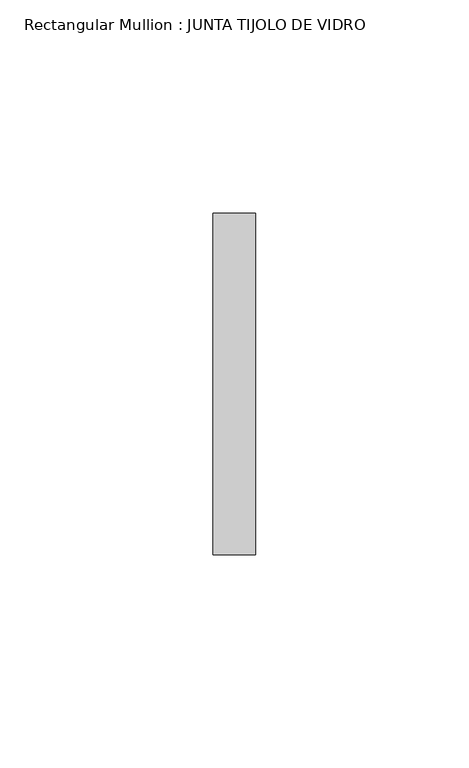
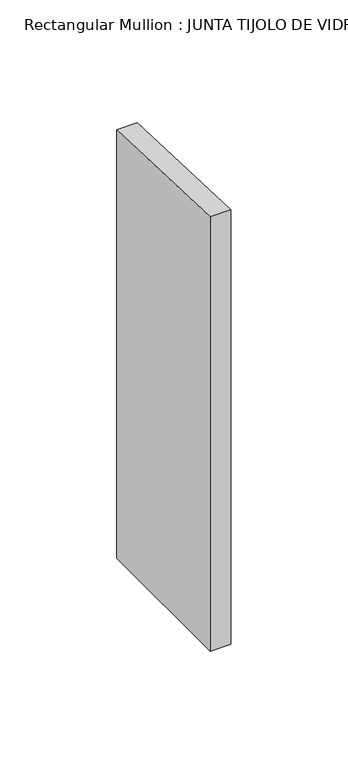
"""IFC4 building model written with IfcOpenShell, lengths in millimetres: member geometry, Rectangular Mullion : JUNTA TIJOLO DE VIDRO."""

from ifc_helpers import new_model, si_unit, frame, origin, place, context, project, spatial, polyline, outline, extrude, source, transform, mapped, element, save


def rectangular_mullion_junta_tijolo_de_vidro_e04a7503(model_context):
    return source(origin(), model_context, "Body", "SweptSolid", [
        extrude(outline(polyline([(-40.0, 1.5683228), (40.0, -1.5683228), (40.0, -225.3068806), (-40.0, -225.3068806), (-40.0, 1.5683228)])), frame((-10.0, 0.0, 0.0), z_axis=(1.0, 0.0, 0.0), x_axis=(0.0, 1.0, 0.0)), (0.0, 0.0, 1.0), 10.0),
    ])


if __name__ == "__main__":
    model = new_model("IFC4")
    model_context = context("Model", 3, world=origin())
    ifc_project = project(units=[si_unit("LENGTHUNIT", "METRE", prefix="MILLI")], contexts=[model_context])
    site = spatial("IfcSite", under=ifc_project)
    building = spatial("IfcBuilding", under=site)
    placement = place(None, origin())
    rectangular_mullion_junta_tijolo_de_vidro_shape = rectangular_mullion_junta_tijolo_de_vidro_e04a7503(model_context)
    element("IfcMember", 1, ObjectType="Rectangular Mullion : JUNTA TIJOLO DE VIDRO", at=placement, inside=building, context=model_context, shape_type="MappedRepresentation", body=[
        mapped(rectangular_mullion_junta_tijolo_de_vidro_shape, transform((0.0, 0.0, 0.0), x_axis=(1.0, 0.0, 0.0), y_axis=(0.0, 1.0, 0.0), z_axis=(0.0, 0.0, 1.0))),
    ])
    save(model, "model.ifc")
